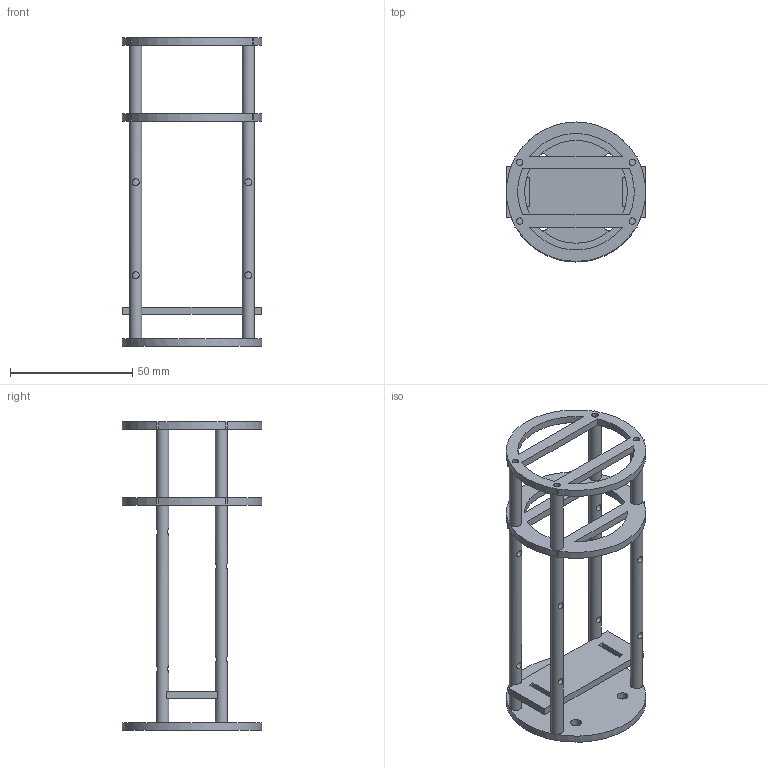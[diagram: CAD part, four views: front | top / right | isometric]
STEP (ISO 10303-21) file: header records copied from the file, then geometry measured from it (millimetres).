
FILE_DESCRIPTION(('FreeCAD Model'),'2;1');
FILE_NAME('Open CASCADE Shape Model','2026-09-19T17:54:12',('FreeCAD'),( 'FreeCAD'),'Open CASCADE STEP processor 7.8','FreeCAD','Unknown');
FILE_SCHEMA(('AUTOMOTIVE_DESIGN { 1 0 10303 214 1 1 1 1 }'));
Length unit declared in the file: millimetre
Products named in the file (1): Open CASCADE STEP translator 7.8 11
Bounding box: 57 x 57 x 126 mm (x, y, z)
Volume: 27400.2 mm3; surface area: 24528.2 mm2
Topology: 1 solids, 5 shells, 113 faces, 343 edges, 250 vertices
Faces by surface type: plane 64, cylinder 49
Full cylindrical faces by diameter (mm): 2.6 x8, 2.8 x8, 3.4 x4, 4.5 x4, 5 x8, 57 x1
Entity records: 5705 total; most frequent: CARTESIAN_POINT 2323, DIRECTION 709, ORIENTED_EDGE 686, EDGE_CURVE 343, AXIS2_PLACEMENT_3D 268, VERTEX_POINT 250, FACE_BOUND 181, EDGE_LOOP 181
